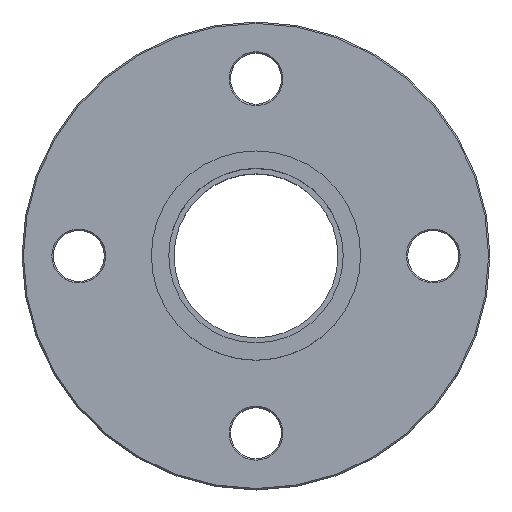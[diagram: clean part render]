
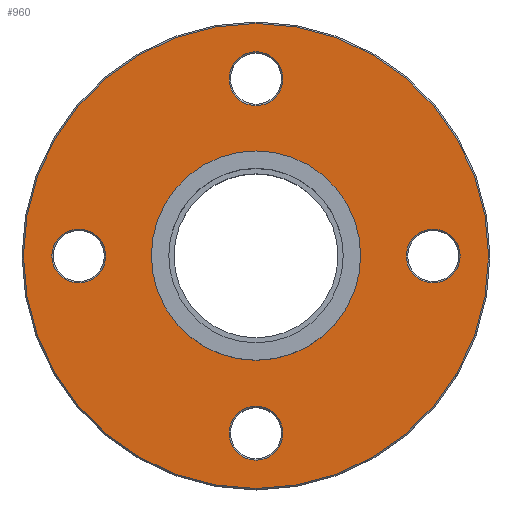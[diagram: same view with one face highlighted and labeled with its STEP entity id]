
A CAD part, top view. The second image highlights one B-rep face of the part: STEP entity #960.
In plain terms, the highlighted planar face has unit normal (0, 0, 1) as drawn and (0, 0, -1) by its records, which use the part's own axes.
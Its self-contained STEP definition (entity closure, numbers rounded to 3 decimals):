
#10=CARTESIAN_POINT('',(0.,0.,0.));
#20=DIRECTION('',(0.,0.,1.));
#30=DIRECTION('',(1.,0.,0.));
#40=AXIS2_PLACEMENT_3D('',#10,#20,#30);
#50=PLANE('',#40);
#60=CARTESIAN_POINT('',(110.,110.,0.));
#70=DIRECTION('',(0.,0.,1.));
#80=DIRECTION('',(0.,-1.,0.));
#90=AXIS2_PLACEMENT_3D('',#60,#70,#80);
#100=CIRCLE('',#90,32.5);
#110=CARTESIAN_POINT('',(110.,77.5,0.));
#120=VERTEX_POINT('',#110);
#130=CARTESIAN_POINT('',(110.,142.5,0.));
#140=VERTEX_POINT('',#130);
#150=EDGE_CURVE('',#120,#140,#100,.T.);
#160=ORIENTED_EDGE('',*,*,#150,.T.);
#170=EDGE_CURVE('',#140,#120,#100,.T.);
#180=ORIENTED_EDGE('',*,*,#170,.T.);
#190=EDGE_LOOP('',(#180,#160));
#200=FACE_BOUND('',#190,.T.);
#210=CARTESIAN_POINT('',(110.,172.5,0.));
#220=DIRECTION('',(0.,0.,1.));
#230=DIRECTION('',(1.,0.,0.));
#240=AXIS2_PLACEMENT_3D('',#210,#220,#230);
#250=CIRCLE('',#240,9.5);
#260=CARTESIAN_POINT('',(119.5,172.5,0.));
#270=VERTEX_POINT('',#260);
#280=CARTESIAN_POINT('',(100.5,172.5,0.));
#290=VERTEX_POINT('',#280);
#300=EDGE_CURVE('',#270,#290,#250,.T.);
#310=ORIENTED_EDGE('',*,*,#300,.T.);
#320=EDGE_CURVE('',#290,#270,#250,.T.);
#330=ORIENTED_EDGE('',*,*,#320,.T.);
#340=EDGE_LOOP('',(#330,#310));
#350=FACE_BOUND('',#340,.T.);
#360=CARTESIAN_POINT('',(47.5,110.,0.));
#370=DIRECTION('',(0.,0.,1.));
#380=DIRECTION('',(1.,0.,0.));
#390=AXIS2_PLACEMENT_3D('',#360,#370,#380);
#400=CIRCLE('',#390,9.5);
#410=CARTESIAN_POINT('',(57.,110.,0.));
#420=VERTEX_POINT('',#410);
#430=CARTESIAN_POINT('',(38.,110.,0.));
#440=VERTEX_POINT('',#430);
#450=EDGE_CURVE('',#420,#440,#400,.T.);
#460=ORIENTED_EDGE('',*,*,#450,.T.);
#470=EDGE_CURVE('',#440,#420,#400,.T.);
#480=ORIENTED_EDGE('',*,*,#470,.T.);
#490=EDGE_LOOP('',(#480,#460));
#500=FACE_BOUND('',#490,.T.);
#510=CARTESIAN_POINT('',(172.5,110.,0.));
#520=DIRECTION('',(0.,0.,1.));
#530=DIRECTION('',(1.,0.,0.));
#540=AXIS2_PLACEMENT_3D('',#510,#520,#530);
#550=CIRCLE('',#540,9.5);
#560=CARTESIAN_POINT('',(182.,110.,0.));
#570=VERTEX_POINT('',#560);
#580=CARTESIAN_POINT('',(163.,110.,0.));
#590=VERTEX_POINT('',#580);
#600=EDGE_CURVE('',#570,#590,#550,.T.);
#610=ORIENTED_EDGE('',*,*,#600,.T.);
#620=EDGE_CURVE('',#590,#570,#550,.T.);
#630=ORIENTED_EDGE('',*,*,#620,.T.);
#640=EDGE_LOOP('',(#630,#610));
#650=FACE_BOUND('',#640,.T.);
#660=CARTESIAN_POINT('',(110.,47.5,0.));
#670=DIRECTION('',(0.,0.,1.));
#680=DIRECTION('',(1.,0.,0.));
#690=AXIS2_PLACEMENT_3D('',#660,#670,#680);
#700=CIRCLE('',#690,9.5);
#710=CARTESIAN_POINT('',(119.5,47.5,0.));
#720=VERTEX_POINT('',#710);
#730=CARTESIAN_POINT('',(100.5,47.5,0.));
#740=VERTEX_POINT('',#730);
#750=EDGE_CURVE('',#720,#740,#700,.T.);
#760=ORIENTED_EDGE('',*,*,#750,.T.);
#770=EDGE_CURVE('',#740,#720,#700,.T.);
#780=ORIENTED_EDGE('',*,*,#770,.T.);
#790=EDGE_LOOP('',(#780,#760));
#800=FACE_BOUND('',#790,.T.);
#810=CARTESIAN_POINT('',(110.,110.,0.));
#820=DIRECTION('',(0.,0.,1.));
#830=DIRECTION('',(1.,0.,0.));
#840=AXIS2_PLACEMENT_3D('',#810,#820,#830);
#850=CIRCLE('',#840,82.);
#860=CARTESIAN_POINT('',(192.,110.,0.));
#870=VERTEX_POINT('',#860);
#880=CARTESIAN_POINT('',(28.,110.,0.));
#890=VERTEX_POINT('',#880);
#900=EDGE_CURVE('',#870,#890,#850,.T.);
#910=ORIENTED_EDGE('',*,*,#900,.F.);
#920=EDGE_CURVE('',#890,#870,#850,.T.);
#930=ORIENTED_EDGE('',*,*,#920,.F.);
#940=EDGE_LOOP('',(#930,#910));
#950=FACE_OUTER_BOUND('',#940,.T.);
#960=ADVANCED_FACE('',(#200,#350,#500,#650,#800,#950),#50,.F.);
